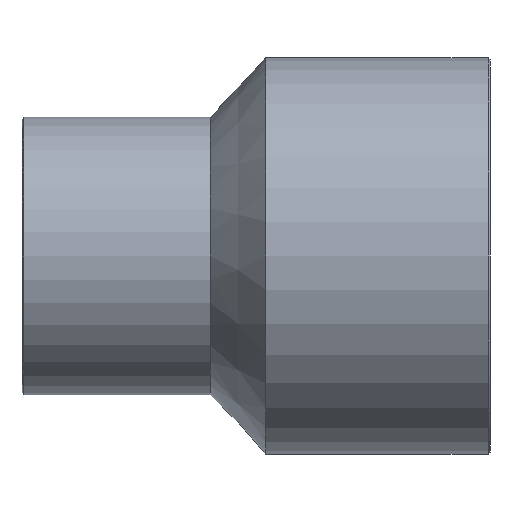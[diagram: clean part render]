
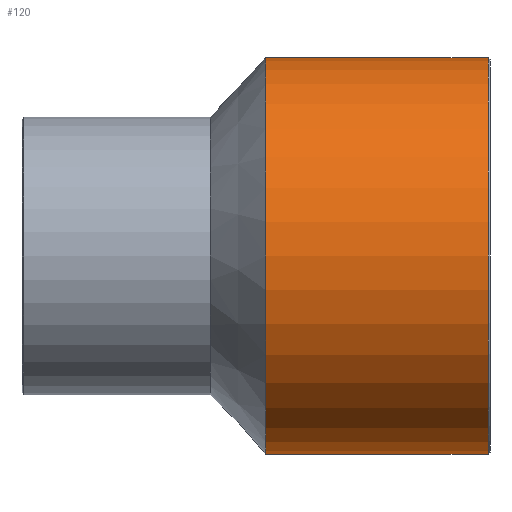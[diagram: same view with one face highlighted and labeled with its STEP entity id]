
A CAD part, front view. The second image highlights one B-rep face of the part: STEP entity #120.
In plain terms, the highlighted cylindrical face has radius 100 mm (diameter 200 mm), a full revolution.
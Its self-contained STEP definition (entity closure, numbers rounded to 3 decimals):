
#26=ORIENTED_EDGE('',*,*,#46,.T.);
#27=ORIENTED_EDGE('',*,*,#47,.F.);
#46=EDGE_CURVE('',#56,#56,#66,.T.);
#47=EDGE_CURVE('',#57,#57,#67,.T.);
#56=VERTEX_POINT('',#208);
#57=VERTEX_POINT('',#210);
#66=CIRCLE('',#144,100.);
#67=CIRCLE('',#145,100.);
#76=EDGE_LOOP('',(#26));
#77=EDGE_LOOP('',(#27));
#96=FACE_BOUND('',#76,.T.);
#97=FACE_BOUND('',#77,.T.);
#116=CYLINDRICAL_SURFACE('',#143,100.);
#120=ADVANCED_FACE('',(#96,#97),#116,.T.);
#143=AXIS2_PLACEMENT_3D('',#206,#165,#166);
#144=AXIS2_PLACEMENT_3D('',#207,#167,#168);
#145=AXIS2_PLACEMENT_3D('',#209,#169,#170);
#165=DIRECTION('',(-1.,0.,0.));
#166=DIRECTION('',(0.,0.,1.));
#167=DIRECTION('',(-1.,0.,0.));
#168=DIRECTION('',(0.,0.,1.));
#169=DIRECTION('',(-1.,0.,0.));
#170=DIRECTION('',(0.,0.,1.));
#206=CARTESIAN_POINT('',(-60.,0.,0.));
#207=CARTESIAN_POINT('',(126.,0.,0.));
#208=CARTESIAN_POINT('',(126.,0.,100.));
#209=CARTESIAN_POINT('',(14.,0.,0.));
#210=CARTESIAN_POINT('',(14.,0.,100.));
